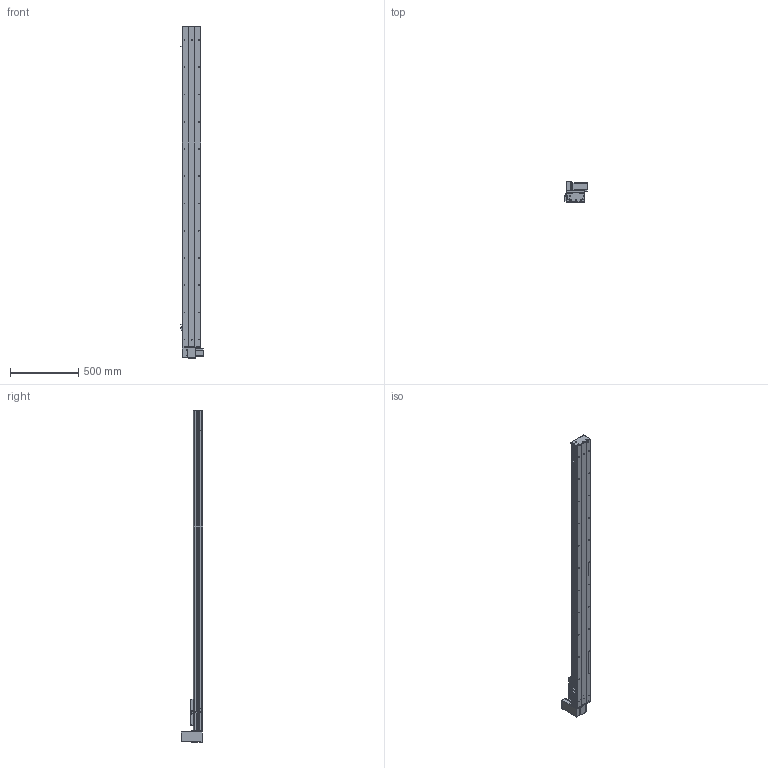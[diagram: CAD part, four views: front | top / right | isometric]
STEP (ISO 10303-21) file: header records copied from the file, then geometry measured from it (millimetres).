
FILE_DESCRIPTION (( 'STEP AP203' ), '1' );
FILE_NAME ('Y135CB-D90-S2050-UR-P400W.STEP', '2020-02-18T06:25:56', ( '微软用户' ), ( '微软中国' ), 'SwSTEP 2.0', 'SolidWorks 2017', '' );
FILE_SCHEMA (( 'CONFIG_CONTROL_DESIGN' ));
Length unit declared in the file: millimetre
Products named in the file (18): 00B-俋欶BM--; C-詩湍揤踡え-陔; Y135CB-D90-S2050-UR-P400W; 135CB--詩湍-CE; Y100-135俋离換覜ん--; Y135C-陔俋离換覜結え-; Y135CB-耜裔; 5C--俋欶; 135CB---遴掛极.-; C-雄赽釱--; 0B-萇儂楊擘啣; 35CB---喘謫眊楊擘啣; Y10B--々湍喘謫眊--666; san松下电机400不带刹车----; 0B-埴倛裔啣; Y10B-耜蚾蟀諉啣----; 5CB --掛极耜裔啣-; 0B-源倛裔啣
Assembly tree (21 placements, depth 2):
  Y135CB-D90-S2050-UR-P400W
    Y135CB-耜裔
    135CB---遴掛极.-
    35CB---喘謫眊楊擘啣
    0B-埴倛裔啣
    0B-源倛裔啣
    0B-萇儂楊擘啣
    san松下电机400不带刹车----
    5CB --掛极耜裔啣-  x2
    C-詩湍揤踡え-陔  x2
    135CB--詩湍-CE
    Y100-135俋离換覜ん--  x3
    Y135C-陔俋离換覜結え-
    5C--俋欶
    C-雄赽釱--
    Y10B--々湍喘謫眊--666
    Y10B-耜蚾蟀諉啣----
    00B-俋欶BM--
Bounding box: 167.5 x 158.7 x 2438 mm (x, y, z)
Volume: 7113266.4 mm3; surface area: 2810842.4 mm2
Topology: 21 solids, 21 shells, 965 faces, 2617 edges, 1734 vertices
Faces by surface type: cylinder 493, plane 456, cone 16
Entity records: 30359 total; most frequent: DIRECTION 5045, CARTESIAN_POINT 5032, ORIENTED_EDGE 4710, EDGE_CURVE 2355, AXIS2_PLACEMENT_3D 1847, VERTEX_POINT 1562, VECTOR 1351, LINE 1351
